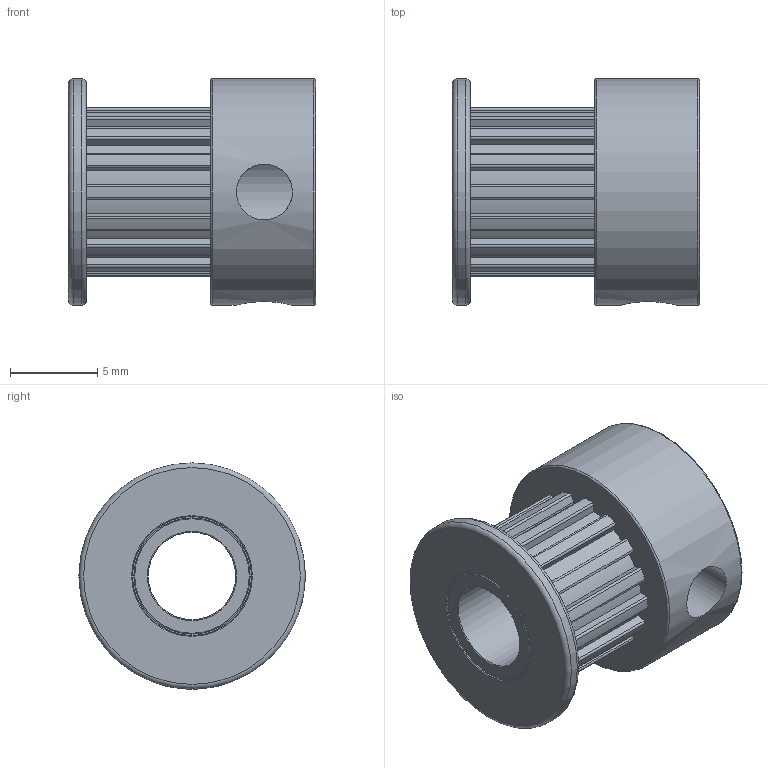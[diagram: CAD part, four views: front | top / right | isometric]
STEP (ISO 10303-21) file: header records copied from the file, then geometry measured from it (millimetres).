
FILE_DESCRIPTION(/* description */ ('STEP AP242 Edition 2','CAx-IF Rec.Pracs.---Representation and Presentation of Product Manufacturing Information (PMI)---4.0---2014-10-13','CAx-IF Rec.Pracs.---3D Tessellated Geometry---0.4---2014-09-14','2;1','CAx-IF Rec.Pracs.---User Defined Attributes---1.5---2016-08-15'),/* implementation_level */ '2;1');
FILE_NAME(/* name */ 'Final Build - M5 Timing Pulley (1)',/* time_stamp */ '2026-08-31T23:26:16Z',/* author */ (''),/* organization */ (''),/* preprocessor_version */ 'ST-DEVELOPER v20',/* originating_system */ 'ONSHAPE BY PTC INC, 1.220',/* authorisation */ ' ');
FILE_SCHEMA (('AP242_MANAGED_MODEL_BASED_3D_ENGINEERING_MIM_LF { 1 0 10303 442 3 1 4 }'));
Length unit declared in the file: metre
Products named in the file (1): M5 Timing Pulley
Bounding box: 14.12 x 12.94 x 12.94 mm (x, y, z)
Volume: 1035.3 mm3; surface area: 1216 mm2
Topology: 1 solids, 1 shells, 123 faces, 339 edges, 223 vertices
Faces by surface type: cylinder 73, plane 40, torus 10
Full cylindrical faces by diameter (mm): 3.2 x2, 5 x1, 6.1 x1, 6.36 x1, 6.646 x1, 6.8 x1, 12.94 x2
Entity records: 3928 total; most frequent: CARTESIAN_POINT 716, DIRECTION 712, ORIENTED_EDGE 632, EDGE_CURVE 316, AXIS2_PLACEMENT_3D 276, VERTEX_POINT 220, LINE 160, VECTOR 160
